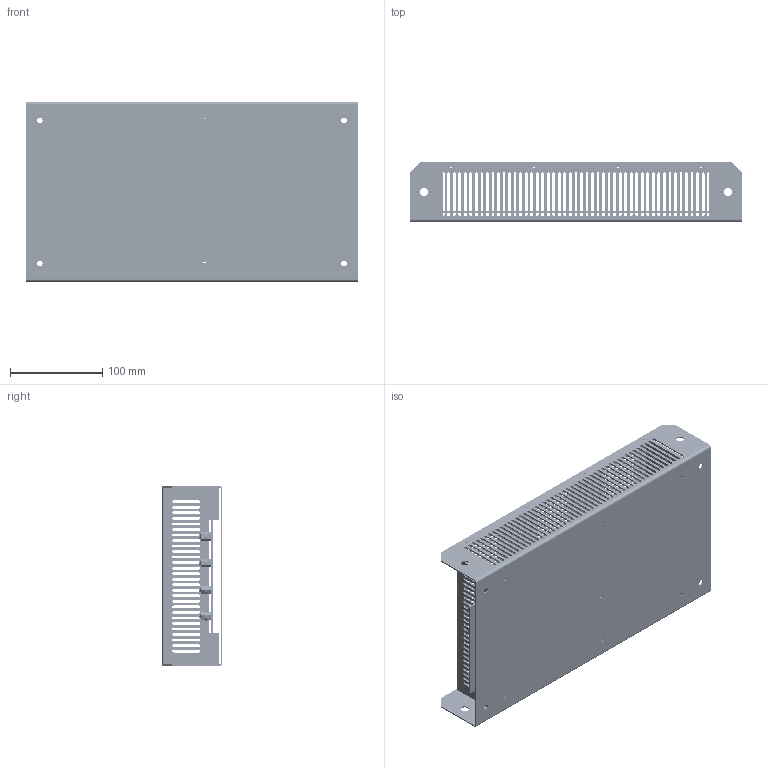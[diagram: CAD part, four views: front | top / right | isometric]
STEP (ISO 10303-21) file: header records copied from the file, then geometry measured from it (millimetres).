
FILE_DESCRIPTION (( 'STEP AP214' ), '1' );
FILE_NAME ('MIF330B.STEP', '2015-01-19T10:46:46', ( '' ), ( '' ), 'SwSTEP 2.0', 'SolidWorks 2014', '' );
FILE_SCHEMA (( 'AUTOMOTIVE_DESIGN' ));
Length unit declared in the file: millimetre
Products named in the file (9): WSH119_WSH119; NUT51_NUT51; TER509_TER509; FIX119; PCB75; BOX152B; BOX152A; MIF330B
Assembly tree (52 placements, depth 3):
  MIF330B
    BOX152A
      BOX152A
    BOX152B
    PCB75
    FIX119  x8
    TER509_TER509  x8
    NUT51_NUT51  x16
    WSH119_WSH119  x16
Bounding box: 360.17 x 65.05 x 195 mm (x, y, z)
Volume: 348099.8 mm3; surface area: 499640.4 mm2
Topology: 51 solids, 51 shells, 4436 faces, 11624 edges, 7344 vertices
Faces by surface type: cylinder 1604, plane 1395, cone 1304, bspline 101, torus 32
Entity records: 82789 total; most frequent: CARTESIAN_POINT 18557, DIRECTION 11781, ORIENTED_EDGE 11754, EDGE_CURVE 5877, AXIS2_PLACEMENT_3D 4134, VERTEX_POINT 3866, VECTOR 3513, LINE 3513
